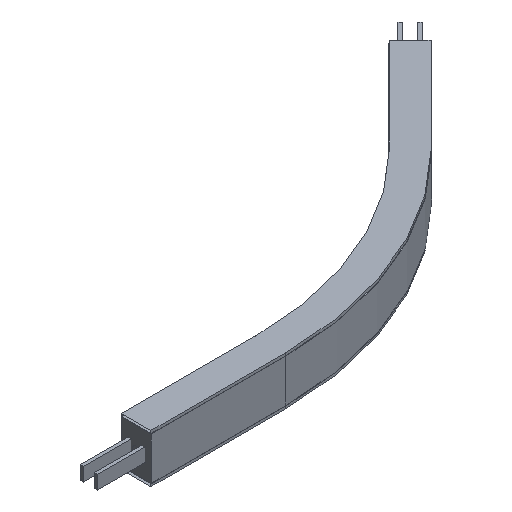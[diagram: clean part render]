
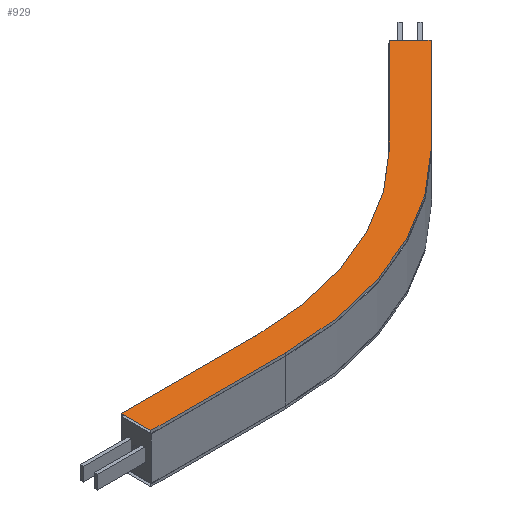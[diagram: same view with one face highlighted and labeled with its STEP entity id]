
A CAD part, isometric view. The second image highlights one B-rep face of the part: STEP entity #929.
In plain terms, the highlighted planar face has unit normal (0, 0, -1).
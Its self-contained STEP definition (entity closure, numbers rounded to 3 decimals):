
#61=CIRCLE('',#1011,478.);
#62=CIRCLE('',#1013,522.);
#119=FACE_OUTER_BOUND('',#171,.T.);
#171=EDGE_LOOP('',(#794,#795,#796,#797,#798,#799,#800,#801));
#253=LINE('',#1463,#363);
#255=LINE('',#1469,#365);
#262=LINE('',#1490,#372);
#267=LINE('',#1499,#377);
#268=LINE('',#1501,#378);
#269=LINE('',#1502,#379);
#363=VECTOR('',#1198,10.);
#365=VECTOR('',#1202,10.);
#372=VECTOR('',#1223,10.);
#377=VECTOR('',#1232,10.);
#378=VECTOR('',#1235,10.);
#379=VECTOR('',#1236,10.);
#453=VERTEX_POINT('',#1457);
#455=VERTEX_POINT('',#1461);
#456=VERTEX_POINT('',#1465);
#458=VERTEX_POINT('',#1468);
#461=VERTEX_POINT('',#1475);
#462=VERTEX_POINT('',#1480);
#464=VERTEX_POINT('',#1486);
#467=VERTEX_POINT('',#1497);
#565=EDGE_CURVE('',#453,#455,#253,.T.);
#567=EDGE_CURVE('',#456,#458,#255,.T.);
#572=EDGE_CURVE('',#461,#453,#61,.T.);
#574=EDGE_CURVE('',#462,#456,#62,.T.);
#578=EDGE_CURVE('',#464,#461,#262,.T.);
#583=EDGE_CURVE('',#467,#462,#267,.T.);
#584=EDGE_CURVE('',#467,#464,#268,.T.);
#585=EDGE_CURVE('',#455,#458,#269,.T.);
#794=ORIENTED_EDGE('',*,*,#584,.T.);
#795=ORIENTED_EDGE('',*,*,#578,.T.);
#796=ORIENTED_EDGE('',*,*,#572,.T.);
#797=ORIENTED_EDGE('',*,*,#565,.T.);
#798=ORIENTED_EDGE('',*,*,#585,.T.);
#799=ORIENTED_EDGE('',*,*,#567,.F.);
#800=ORIENTED_EDGE('',*,*,#574,.F.);
#801=ORIENTED_EDGE('',*,*,#583,.F.);
#879=PLANE('',#1018);
#929=ADVANCED_FACE('',(#119),#879,.F.);
#1011=AXIS2_PLACEMENT_3D('',#1478,#1210,#1211);
#1013=AXIS2_PLACEMENT_3D('',#1483,#1215,#1216);
#1018=AXIS2_PLACEMENT_3D('',#1500,#1233,#1234);
#1198=DIRECTION('',(0.707,0.707,0.));
#1202=DIRECTION('',(0.707,0.707,0.));
#1210=DIRECTION('center_axis',(0.,0.,
1.));
#1211=DIRECTION('ref_axis',(0.,-1.,0.));
#1215=DIRECTION('center_axis',(0.,0.,
1.));
#1216=DIRECTION('ref_axis',(0.,-1.,0.));
#1223=DIRECTION('',(1.,0.,0.));
#1232=DIRECTION('',(1.,0.,0.));
#1233=DIRECTION('center_axis',(0.,0.,1.));
#1234=DIRECTION('ref_axis',(0.,-1.,0.));
#1235=DIRECTION('',(0.,1.,0.));
#1236=DIRECTION('',(0.707,-0.707,0.));
#1457=CARTESIAN_POINT('',(537.997,162.003,36.1));
#1461=CARTESIAN_POINT('',(679.418,303.424,36.1));
#1463=CARTESIAN_POINT('',(537.997,162.003,36.1));
#1465=CARTESIAN_POINT('',(569.11,130.89,36.1));
#1468=CARTESIAN_POINT('',(710.531,272.312,36.1));
#1469=CARTESIAN_POINT('',(569.11,130.89,36.1));
#1475=CARTESIAN_POINT('',(200.,22.,36.1));
#1478=CARTESIAN_POINT('Origin',(200.,500.,36.1));
#1480=CARTESIAN_POINT('',(200.,-22.,36.1));
#1483=CARTESIAN_POINT('Origin',(200.,500.,36.1));
#1486=CARTESIAN_POINT('',(0.,22.,36.1));
#1490=CARTESIAN_POINT('',(0.,22.,36.1));
#1497=CARTESIAN_POINT('',(0.,-22.,36.1));
#1499=CARTESIAN_POINT('',(0.,-22.,36.1));
#1500=CARTESIAN_POINT('Origin',(0.,22.,36.1));
#1501=CARTESIAN_POINT('',(0.,-22.,36.1));
#1502=CARTESIAN_POINT('',(710.531,272.312,36.1));
